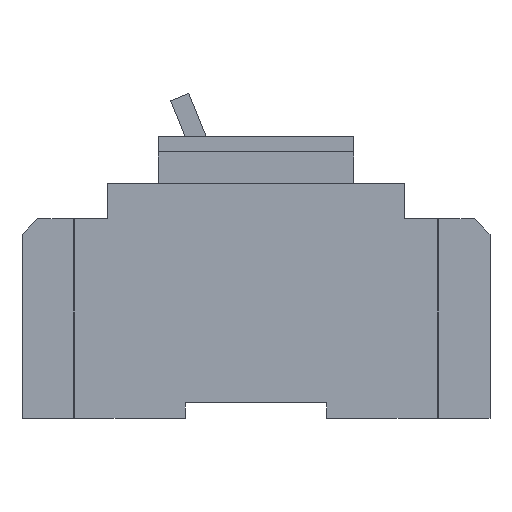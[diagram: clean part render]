
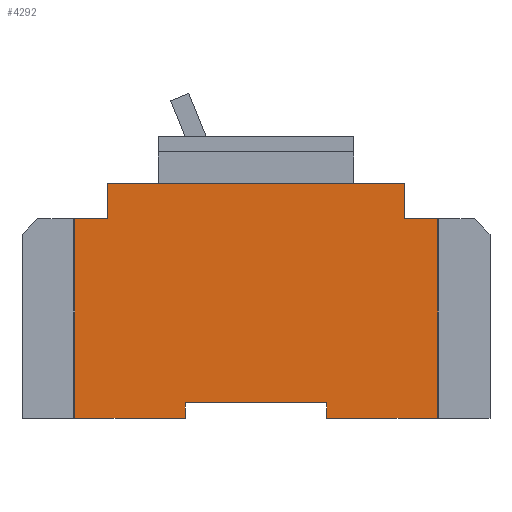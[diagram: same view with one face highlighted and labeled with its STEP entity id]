
A CAD part, left-side view. The second image highlights one B-rep face of the part: STEP entity #4292.
In plain terms, the highlighted planar face has unit normal (-1, 0, 0).
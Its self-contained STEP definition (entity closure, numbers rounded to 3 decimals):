
#2714 = EDGE_CURVE( '', #6130, #4006, #7062, .T. );
#2808 = VERTEX_POINT( '', #7163 );
#2858 = VERTEX_POINT( '', #7219 );
#2910 = EDGE_CURVE( '', #4064, #6130, #7275, .T. );
#3032 = EDGE_CURVE( '', #2858, #5248, #7411, .T. );
#3396 = EDGE_CURVE( '', #5516, #3472, #7816, .T. );
#3436 = EDGE_CURVE( '', #4306, #5248, #7860, .T. );
#3472 = VERTEX_POINT( '', #7900 );
#3676 = EDGE_CURVE( '', #4006, #4306, #8121, .T. );
#4006 = VERTEX_POINT( '', #8480 );
#4064 = VERTEX_POINT( '', #8540 );
#4108 = EDGE_CURVE( '', #2858, #6220, #8587, .T. );
#4138 = VERTEX_POINT( '', #8622 );
#4188 = EDGE_CURVE( '', #4138, #6248, #8678, .T. );
#4292 = ADVANCED_FACE( '', ( #8789 ), #8790, .F. );
#4306 = VERTEX_POINT( '', #8804 );
#4642 = EDGE_CURVE( '', #2808, #3472, #9170, .T. );
#4798 = EDGE_CURVE( '', #2808, #4064, #9341, .T. );
#5248 = VERTEX_POINT( '', #9835 );
#5320 = EDGE_CURVE( '', #6220, #4138, #9919, .T. );
#5516 = VERTEX_POINT( '', #10127 );
#5596 = EDGE_CURVE( '', #6248, #5516, #10215, .T. );
#6130 = VERTEX_POINT( '', #10796 );
#6220 = VERTEX_POINT( '', #10897 );
#6248 = VERTEX_POINT( '', #10928 );
#7062 = LINE( '', #11996, #11997 );
#7163 = CARTESIAN_POINT( '', ( -37.5, -4.5, 0. ) );
#7219 = CARTESIAN_POINT( '', ( -37.5, 88.5, 51. ) );
#7275 = LINE( '', #12288, #12289 );
#7411 = LINE( '', #12486, #12487 );
#7816 = LINE( '', #13054, #13055 );
#7860 = LINE( '', #13122, #13123 );
#7900 = CARTESIAN_POINT( '', ( -37.5, -4.5, 51. ) );
#8121 = LINE( '', #13502, #13503 );
#8480 = CARTESIAN_POINT( '', ( -37.5, 60., 4. ) );
#8540 = CARTESIAN_POINT( '', ( -37.5, 24., 0. ) );
#8587 = LINE( '', #14141, #14142 );
#8622 = CARTESIAN_POINT( '', ( -37.5, 80., 60. ) );
#8678 = LINE( '', #14261, #14262 );
#8789 = FACE_OUTER_BOUND( '', #14410, .T. );
#8790 = PLANE( '', #14411 );
#8804 = CARTESIAN_POINT( '', ( -37.5, 60., 0. ) );
#9170 = LINE( '', #14969, #14970 );
#9341 = LINE( '', #15212, #15213 );
#9835 = CARTESIAN_POINT( '', ( -37.5, 88.5, 0. ) );
#9919 = LINE( '', #16015, #16016 );
#10127 = CARTESIAN_POINT( '', ( -37.5, 4., 51. ) );
#10215 = LINE( '', #16417, #16418 );
#10796 = CARTESIAN_POINT( '', ( -37.5, 24., 4. ) );
#10897 = CARTESIAN_POINT( '', ( -37.5, 80., 51. ) );
#10928 = CARTESIAN_POINT( '', ( -37.5, 4., 60. ) );
#11996 = CARTESIAN_POINT( '', ( -37.5, 24., 4. ) );
#11997 = VECTOR( '', #18420, 1. );
#12288 = CARTESIAN_POINT( '', ( -37.5, 24., 0. ) );
#12289 = VECTOR( '', #18615, 1. );
#12486 = CARTESIAN_POINT( '', ( -37.5, 88.5, 0. ) );
#12487 = VECTOR( '', #18778, 1. );
#13054 = CARTESIAN_POINT( '', ( -37.5, 4., 51. ) );
#13055 = VECTOR( '', #19262, 1. );
#13122 = CARTESIAN_POINT( '', ( -37.5, 60., 0. ) );
#13123 = VECTOR( '', #19317, 1. );
#13502 = CARTESIAN_POINT( '', ( -37.5, 60., 4. ) );
#13503 = VECTOR( '', #19612, 1. );
#14141 = CARTESIAN_POINT( '', ( -37.5, 92., 51. ) );
#14142 = VECTOR( '', #20059, 1. );
#14261 = CARTESIAN_POINT( '', ( -37.5, 80., 60. ) );
#14262 = VECTOR( '', #20168, 1. );
#14410 = EDGE_LOOP( '', ( #20252, #20253, #20254, #20255, #20256, #20257, #20258, #20259, #20260, #20261, #20262, #20263 ) );
#14411 = AXIS2_PLACEMENT_3D( '', #20264, #20265, #20266 );
#14969 = CARTESIAN_POINT( '', ( -37.5, -4.5, 0. ) );
#14970 = VECTOR( '', #20655, 1. );
#15212 = CARTESIAN_POINT( '', ( -37.5, -8., 0. ) );
#15213 = VECTOR( '', #20841, 1. );
#16015 = CARTESIAN_POINT( '', ( -37.5, 80., 51. ) );
#16016 = VECTOR( '', #21507, 1. );
#16417 = CARTESIAN_POINT( '', ( -37.5, 4., 60. ) );
#16418 = VECTOR( '', #21782, 1. );
#18420 = DIRECTION( '', ( 0., 1., 0. ) );
#18615 = DIRECTION( '', ( 0., 0., 1. ) );
#18778 = DIRECTION( '', ( 0., 0., -1. ) );
#19262 = DIRECTION( '', ( 0., -1., 0. ) );
#19317 = DIRECTION( '', ( 0., 1., 0. ) );
#19612 = DIRECTION( '', ( 0., 0., -1. ) );
#20059 = DIRECTION( '', ( 0., -1., 0. ) );
#20168 = DIRECTION( '', ( 0., -1., 0. ) );
#20252 = ORIENTED_EDGE( '', *, *, #4642, .T. );
#20253 = ORIENTED_EDGE( '', *, *, #3396, .F. );
#20254 = ORIENTED_EDGE( '', *, *, #5596, .F. );
#20255 = ORIENTED_EDGE( '', *, *, #4188, .F. );
#20256 = ORIENTED_EDGE( '', *, *, #5320, .F. );
#20257 = ORIENTED_EDGE( '', *, *, #4108, .F. );
#20258 = ORIENTED_EDGE( '', *, *, #3032, .T. );
#20259 = ORIENTED_EDGE( '', *, *, #3436, .F. );
#20260 = ORIENTED_EDGE( '', *, *, #3676, .F. );
#20261 = ORIENTED_EDGE( '', *, *, #2714, .F. );
#20262 = ORIENTED_EDGE( '', *, *, #2910, .F. );
#20263 = ORIENTED_EDGE( '', *, *, #4798, .F. );
#20264 = CARTESIAN_POINT( '', ( -37.5, 0., 0. ) );
#20265 = DIRECTION( '', ( 1., 0., 0. ) );
#20266 = DIRECTION( '', ( 0., 0., -1. ) );
#20655 = DIRECTION( '', ( 0., 0., 1. ) );
#20841 = DIRECTION( '', ( 0., 1., 0. ) );
#21507 = DIRECTION( '', ( 0., 0., 1. ) );
#21782 = DIRECTION( '', ( 0., 0., -1. ) );
